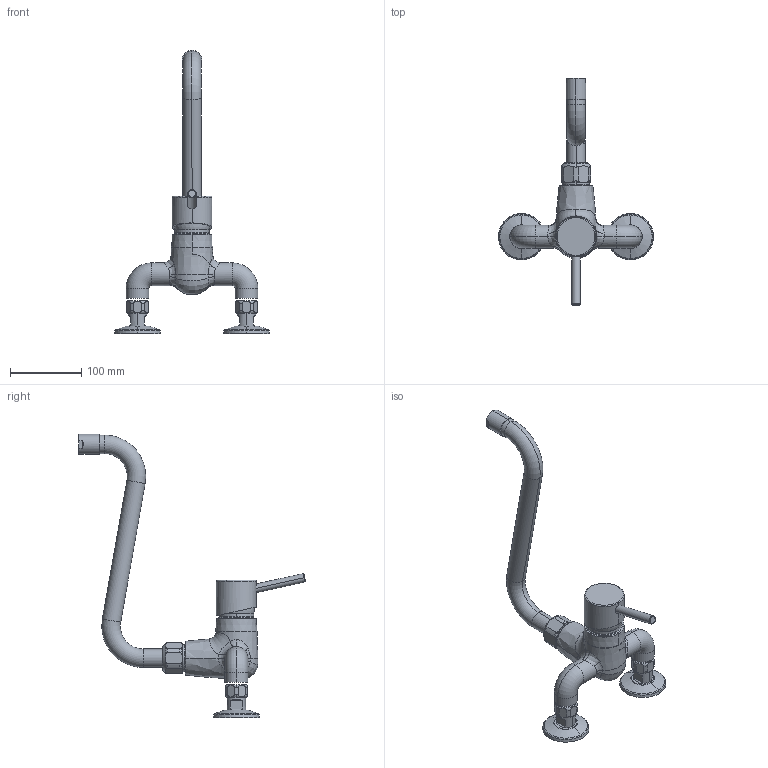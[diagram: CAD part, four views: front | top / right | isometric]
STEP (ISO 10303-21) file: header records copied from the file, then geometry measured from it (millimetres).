
FILE_DESCRIPTION((''),'2;1');
FILE_NAME('K_24_32_11_000A60','2012-01-03T',('HEF'),(''),'PRO/ENGINEER BY PARAMETRIC TECHNOLOGY CORPORATION, 2011080','PRO/ENGINEER BY PARAMETRIC TECHNOLOGY CORPORATION, 2011080','');
FILE_SCHEMA(('AUTOMOTIVE_DESIGN_CC2 { 1 2 10303 214 -1 1 5 2 }'));
Length unit declared in the file: millimetre
Products named in the file (1): K_24_32_11_000A60
Bounding box: 218 x 318.76 x 397.92 mm (x, y, z)
Volume: 932235 mm3; surface area: 115965.9 mm2
Topology: 4 solids, 4 shells, 319 faces, 754 edges, 461 vertices
Faces by surface type: plane 97, torus 80, cylinder 79, cone 31, bspline 27, sphere 5
Entity records: 17963 total; most frequent: CARTESIAN_POINT 7715, DIRECTION 1515, ORIENTED_EDGE 1508, EDGE_CURVE 754, AXIS2_PLACEMENT_3D 647, FILL_AREA_STYLE_COLOUR 477, FILL_AREA_STYLE 477, SURFACE_STYLE_FILL_AREA 477
